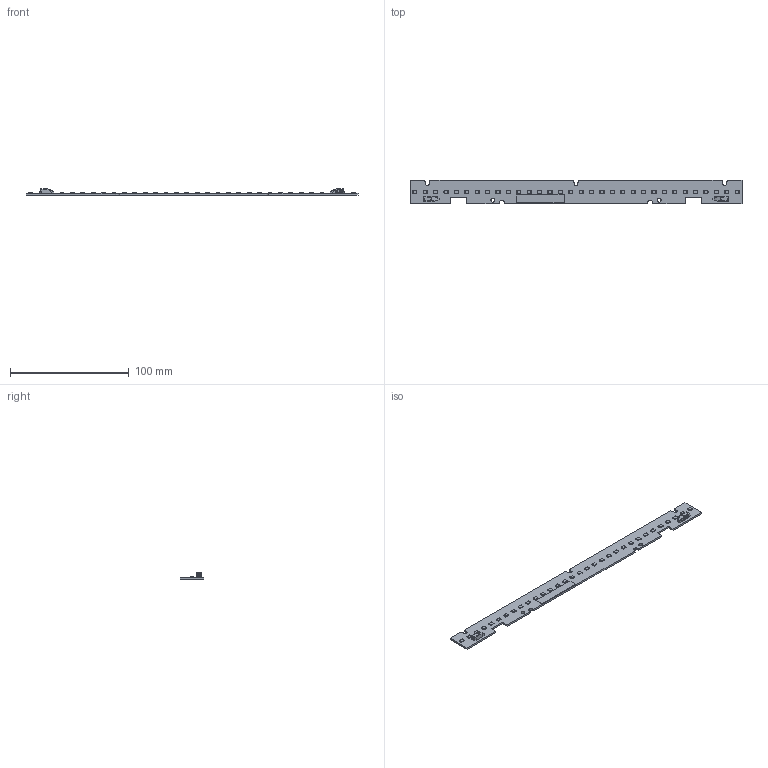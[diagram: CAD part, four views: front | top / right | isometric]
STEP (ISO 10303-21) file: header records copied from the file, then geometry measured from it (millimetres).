
FILE_DESCRIPTION(('Open CASCADE Model'),'2;1');
FILE_NAME('Open CASCADE Shape Model','2025-04-03T17:54:18',('Author'),( 'Open CASCADE'),'Open CASCADE STEP processor 7.5','Open CASCADE 7.5' ,'Unknown');
FILE_SCHEMA(('AUTOMOTIVE_DESIGN { 1 0 10303 214 1 1 1 1 }'));
Length unit declared in the file: millimetre
Products named in the file (42): PCB; Board; Open CASCADE STEP translator 7.5 1.1.1; J2; BJB 46.101.1001; ET1; 5473968320; Extruded; J1; DL1; LUXEON_2835_20160407_STEP_RGB60909; DL2; DL3; DL4; DL5; DL6; DL7; DL8; DL9; DL10; DL11; DL12; DL13; DL14; DL15; DL16; DL17; DL18; DL19; DL20; DL21; DL22; DL23; DL24; DL25; DL26; DL27; DL28; DL29; DL30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
Assembly tree (73 placements, depth 4):
  PCB
    Board
      Open CASCADE STEP translator 7.5 1.1.1
    J2
      BJB 46.101.1001
    ET1
      5473968320
        Extruded
    J1
      BJB 46.101.1001
    DL1
      LUXEON_2835_20160407_STEP_RGB60909
    DL2
      LUXEON_2835_20160407_STEP_RGB60909
    DL3
      LUXEON_2835_20160407_STEP_RGB60909
    DL4
      LUXEON_2835_20160407_STEP_RGB60909
    DL5
      LUXEON_2835_20160407_STEP_RGB60909
    DL6
      LUXEON_2835_20160407_STEP_RGB60909
    DL7
      LUXEON_2835_20160407_STEP_RGB60909
    DL8
      LUXEON_2835_20160407_STEP_RGB60909
    DL9
      LUXEON_2835_20160407_STEP_RGB60909
    DL10
      LUXEON_2835_20160407_STEP_RGB60909
    DL11
      LUXEON_2835_20160407_STEP_RGB60909
    DL12
      LUXEON_2835_20160407_STEP_RGB60909
    DL13
      LUXEON_2835_20160407_STEP_RGB60909
    DL14
      LUXEON_2835_20160407_STEP_RGB60909
    DL15
      LUXEON_2835_20160407_STEP_RGB60909
    DL16
      LUXEON_2835_20160407_STEP_RGB60909
    DL17
      LUXEON_2835_20160407_STEP_RGB60909
    DL18
      LUXEON_2835_20160407_STEP_RGB60909
    DL19
      LUXEON_2835_20160407_STEP_RGB60909
    DL20
      LUXEON_2835_20160407_STEP_RGB60909
    DL21
      LUXEON_2835_20160407_STEP_RGB60909
    DL22
      LUXEON_2835_20160407_STEP_RGB60909
    DL23
      LUXEON_2835_20160407_STEP_RGB60909
    DL24
      LUXEON_2835_20160407_STEP_RGB60909
    DL25
      LUXEON_2835_20160407_STEP_RGB60909
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Bounding box: 279.4 x 20 x 5.49 mm (x, y, z)
Volume: 8889.4 mm3; surface area: 13629.8 mm2
Topology: 36 solids, 36 shells, 4612 faces, 12718 edges, 8364 vertices
Faces by surface type: plane 3170, cylinder 1314, bspline 128
Full cylindrical faces by diameter (mm): 3.2 x2
Entity records: 26217 total; most frequent: CARTESIAN_POINT 6352, ORIENTED_EDGE 3616, DIRECTION 3301, EDGE_CURVE 1808, LINE 1471, VECTOR 1471, VERTEX_POINT 1198, AXIS2_PLACEMENT_3D 915
